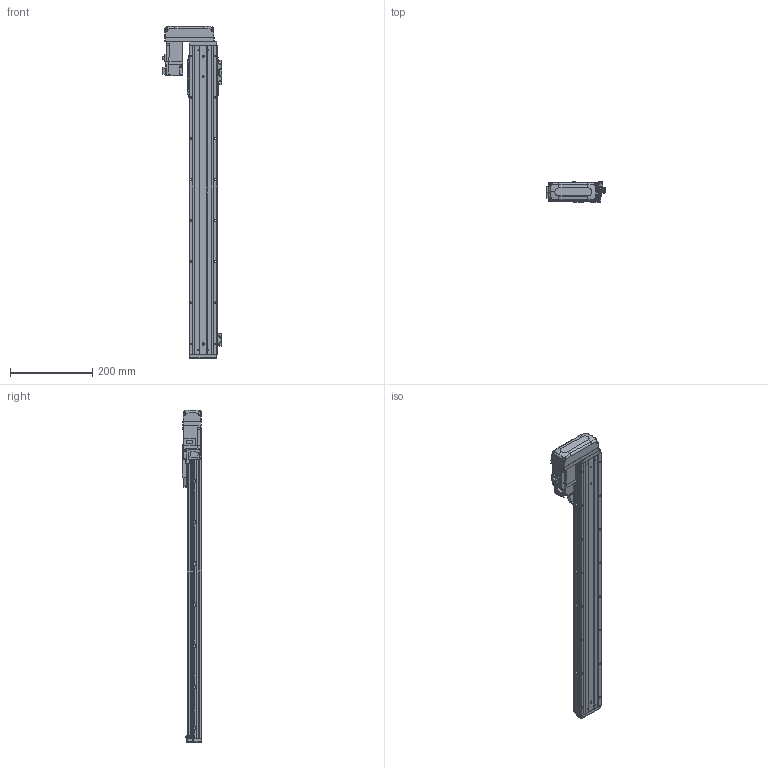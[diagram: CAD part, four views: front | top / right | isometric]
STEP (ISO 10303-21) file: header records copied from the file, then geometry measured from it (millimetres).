
FILE_DESCRIPTION (( 'STEP AP203' ), '1' );
FILE_NAME ('CTHA60-600-BR-M10-C4L.step', '2022-03-19T06:22:49', ( '微软用户' ), ( '微软中国' ), 'SwSTEP 2.0', 'SolidWorks 2020', '' );
FILE_SCHEMA (( 'CONFIG_CONTROL_DESIGN' ));
Length unit declared in the file: millimetre
Products named in the file (18): CTHA60-031; CTHA60-004; GBT77-2000 M3×3; CTHA60-006-1; CTHA60-005; GBT 70.1-M3℅6; CTHA60-033; GB¨uT 70.2-M3¡Á6_M3¡Á6; GBT 70.3-M3℅6; CTHA60-600-BR-M10-C4L; EE_SX911P_R; CTHA60-016; CTHA60-017; HG-KR13（三菱）; CTHA60-021; CTHA60-002; CTHA60-001_750; GBT 70.1-M4×16
Assembly tree (54 placements, depth 2):
  CTHA60-600-BR-M10-C4L
    CTHA60-001_750
    CTHA60-004
    CTHA60-005
    GB¨uT 70.2-M3¡Á6_M3¡Á6  x10
    EE_SX911P_R  x3
    CTHA60-017  x3
    CTHA60-021  x2
    GBT 70.1-M4×16  x10
    GBT77-2000 M3×3  x6
    GBT 70.1-M3℅6  x6
    GBT 70.3-M3℅6  x4
    CTHA60-016  x2
    HG-KR13（三菱）
    CTHA60-002
    CTHA60-031
    CTHA60-006-1
    CTHA60-033
Bounding box: 143.62 x 48 x 807 mm (x, y, z)
Volume: 1400774.8 mm3; surface area: 420457.4 mm2
Topology: 56 solids, 56 shells, 2534 faces, 6093 edges, 3757 vertices
Faces by surface type: plane 1461, cylinder 583, cone 342, torus 92, bspline 32, sphere 24
Entity records: 45657 total; most frequent: CARTESIAN_POINT 8810, DIRECTION 7056, ORIENTED_EDGE 6994, EDGE_CURVE 3497, VECTOR 2484, LINE 2484, AXIS2_PLACEMENT_3D 2286, VERTEX_POINT 2216
